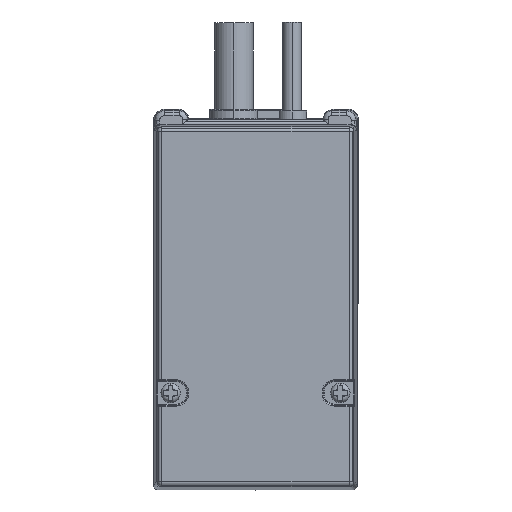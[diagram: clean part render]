
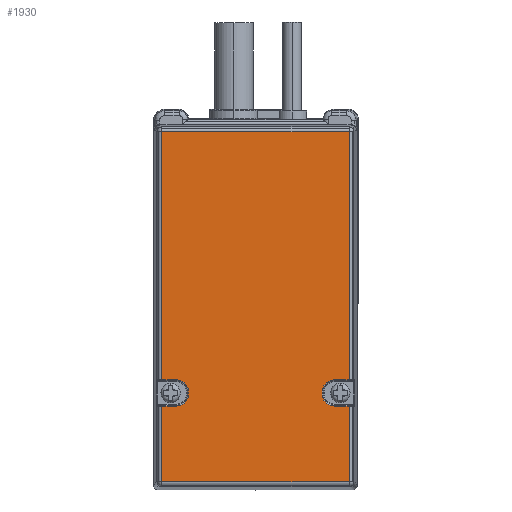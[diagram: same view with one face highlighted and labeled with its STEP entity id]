
A CAD part, left-side view. The second image highlights one B-rep face of the part: STEP entity #1930.
In plain terms, the highlighted planar face has unit normal (-1, 0, 0).
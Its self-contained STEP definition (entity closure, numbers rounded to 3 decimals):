
#1930=ADVANCED_FACE('',(#3755),#3756,.F.);
#3755=FACE_OUTER_BOUND('',#7293,.T.);
#3756=PLANE('',#7294);
#7293=EDGE_LOOP('',(#12443,#12444,#12445,#12446,#12447,#12448,#12449,#12450,#12451,#12452,#12453,#12454,#12455,#12456,#12457,#12458));
#7294=AXIS2_PLACEMENT_3D('',#12459,#12460,#12461);
#12443=ORIENTED_EDGE('',*,*,#14738,.F.);
#12444=ORIENTED_EDGE('',*,*,#13638,.F.);
#12445=ORIENTED_EDGE('',*,*,#13036,.F.);
#12446=ORIENTED_EDGE('',*,*,#14311,.F.);
#12447=ORIENTED_EDGE('',*,*,#13911,.F.);
#12448=ORIENTED_EDGE('',*,*,#13518,.F.);
#12449=ORIENTED_EDGE('',*,*,#13155,.F.);
#12450=ORIENTED_EDGE('',*,*,#12885,.F.);
#12451=ORIENTED_EDGE('',*,*,#14762,.F.);
#12452=ORIENTED_EDGE('',*,*,#14345,.F.);
#12453=ORIENTED_EDGE('',*,*,#12811,.F.);
#12454=ORIENTED_EDGE('',*,*,#14244,.F.);
#12455=ORIENTED_EDGE('',*,*,#14591,.F.);
#12456=ORIENTED_EDGE('',*,*,#14763,.F.);
#12457=ORIENTED_EDGE('',*,*,#14487,.F.);
#12458=ORIENTED_EDGE('',*,*,#13835,.F.);
#12459=CARTESIAN_POINT('',(-94.404,0.115,36.16));
#12460=DIRECTION('',(1.0,0.0,0.0));
#12461=DIRECTION('',(0.0,1.0,0.));
#12811=EDGE_CURVE('',#14911,#14913,#14914,.T.);
#12885=EDGE_CURVE('',#15042,#15044,#15045,.T.);
#13036=EDGE_CURVE('',#15308,#15310,#15311,.T.);
#13155=EDGE_CURVE('',#15044,#15518,#15519,.T.);
#13518=EDGE_CURVE('',#15518,#16114,#16115,.T.);
#13638=EDGE_CURVE('',#15310,#16301,#16302,.T.);
#13835=EDGE_CURVE('',#16581,#16583,#16584,.T.);
#13911=EDGE_CURVE('',#16114,#16691,#16692,.T.);
#14244=EDGE_CURVE('',#16887,#14911,#17148,.T.);
#14311=EDGE_CURVE('',#16691,#15308,#17228,.T.);
#14345=EDGE_CURVE('',#14913,#16742,#17266,.T.);
#14487=EDGE_CURVE('',#16583,#17429,#17430,.T.);
#14591=EDGE_CURVE('',#17549,#16887,#17551,.T.);
#14738=EDGE_CURVE('',#16301,#16581,#17707,.T.);
#14762=EDGE_CURVE('',#16742,#15042,#17732,.T.);
#14763=EDGE_CURVE('',#17429,#17549,#17733,.T.);
#14911=VERTEX_POINT('',#17924);
#14913=VERTEX_POINT('',#17926);
#14914=LINE('',#17927,#17928);
#15042=VERTEX_POINT('',#18100);
#15044=VERTEX_POINT('',#18102);
#15045=CIRCLE('',#18103,2.5);
#15308=VERTEX_POINT('',#18454);
#15310=VERTEX_POINT('',#18456);
#15311=LINE('',#18457,#18458);
#15518=VERTEX_POINT('',#18791);
#15519=LINE('',#18792,#18793);
#16114=VERTEX_POINT('',#19799);
#16115=CIRCLE('',#19800,2.5);
#16301=VERTEX_POINT('',#20423);
#16302=LINE('',#20424,#20425);
#16581=VERTEX_POINT('',#21069);
#16583=VERTEX_POINT('',#21071);
#16584=CIRCLE('',#21072,2.5);
#16691=VERTEX_POINT('',#21206);
#16692=LINE('',#21207,#21208);
#16742=VERTEX_POINT('',#21276);
#16887=VERTEX_POINT('',#21477);
#17148=LINE('',#21886,#21887);
#17228=LINE('',#22075,#22076);
#17266=LINE('',#22165,#22166);
#17429=VERTEX_POINT('',#22441);
#17430=LINE('',#22442,#22443);
#17549=VERTEX_POINT('',#22600);
#17551=LINE('',#22602,#22603);
#17707=LINE('',#22888,#22889);
#17732=LINE('',#23095,#23096);
#17733=CIRCLE('',#23097,2.5);
#17924=CARTESIAN_POINT('',(-94.404,19.425,70.788));
#17926=CARTESIAN_POINT('',(-94.404,-19.195,70.788));
#17927=CARTESIAN_POINT('',(-94.404,-1.135,70.788));
#17928=VECTOR('',#23215,1.0);
#18100=CARTESIAN_POINT('',(-94.404,-16.185,19.615));
#18102=CARTESIAN_POINT('',(-94.404,-13.685,17.115));
#18103=AXIS2_PLACEMENT_3D('',#23324,#23325,#23326);
#18454=CARTESIAN_POINT('',(-94.404,-19.195,-1.396));
#18456=CARTESIAN_POINT('',(-94.404,19.425,-1.396));
#18457=CARTESIAN_POINT('',(-94.404,0.115,-1.396));
#18458=VECTOR('',#23551,1.0);
#18791=CARTESIAN_POINT('',(-94.404,-13.685,16.715));
#18792=CARTESIAN_POINT('',(-94.404,-13.685,26.537));
#18793=VECTOR('',#23707,1.0);
#19799=CARTESIAN_POINT('',(-94.404,-16.185,14.215));
#19800=AXIS2_PLACEMENT_3D('',#24234,#24235,#24236);
#20423=CARTESIAN_POINT('',(-94.404,19.425,14.215));
#20424=CARTESIAN_POINT('',(-94.404,19.425,38.338));
#20425=VECTOR('',#24401,1.0);
#21069=CARTESIAN_POINT('',(-94.404,16.415,14.215));
#21071=CARTESIAN_POINT('',(-94.404,13.915,16.715));
#21072=AXIS2_PLACEMENT_3D('',#24667,#24668,#24669);
#21206=CARTESIAN_POINT('',(-94.404,-19.195,14.215));
#21207=CARTESIAN_POINT('',(-94.404,-8.635,14.215));
#21208=VECTOR('',#24787,1.0);
#21276=CARTESIAN_POINT('',(-94.404,-19.195,19.615));
#21477=CARTESIAN_POINT('',(-94.404,19.425,19.615));
#21886=CARTESIAN_POINT('',(-94.404,19.425,38.338));
#21887=VECTOR('',#25246,1.0);
#22075=CARTESIAN_POINT('',(-94.404,-19.195,36.16));
#22076=VECTOR('',#25322,1.0);
#22165=CARTESIAN_POINT('',(-94.404,-19.195,36.16));
#22166=VECTOR('',#25360,1.0);
#22441=CARTESIAN_POINT('',(-94.404,13.915,17.115));
#22442=CARTESIAN_POINT('',(-94.404,13.915,26.537));
#22443=VECTOR('',#25508,1.0);
#22600=CARTESIAN_POINT('',(-94.404,16.415,19.615));
#22602=CARTESIAN_POINT('',(-94.404,8.865,19.615));
#22603=VECTOR('',#25610,1.0);
#22888=CARTESIAN_POINT('',(-94.404,8.865,14.215));
#22889=VECTOR('',#25708,1.0);
#23095=CARTESIAN_POINT('',(-94.404,-8.635,19.615));
#23096=VECTOR('',#25716,1.0);
#23097=AXIS2_PLACEMENT_3D('',#25717,#25718,#25719);
#23215=DIRECTION('',(0.0,-1.0,0.0));
#23324=CARTESIAN_POINT('',(-94.404,-16.185,17.115));
#23325=DIRECTION('',(-1.0,0.0,0.0));
#23326=DIRECTION('',(0.0,0.707,0.707));
#23551=DIRECTION('',(0.0,1.0,0.0));
#23707=DIRECTION('',(0.0,0.0,-1.0));
#24234=CARTESIAN_POINT('',(-94.404,-16.185,16.715));
#24235=DIRECTION('',(-1.0,0.0,0.0));
#24236=DIRECTION('',(0.0,0.707,-0.707));
#24401=DIRECTION('',(0.0,0.,1.0));
#24667=CARTESIAN_POINT('',(-94.404,16.415,16.715));
#24668=DIRECTION('',(-1.0,-0.0,0.0));
#24669=DIRECTION('',(0.0,-0.707,-0.707));
#24787=DIRECTION('',(0.0,-1.0,0.0));
#25246=DIRECTION('',(0.0,0.,1.0));
#25322=DIRECTION('',(0.0,0.,-1.0));
#25360=DIRECTION('',(0.0,0.,-1.0));
#25508=DIRECTION('',(0.0,0.0,1.0));
#25610=DIRECTION('',(0.0,1.0,0.0));
#25708=DIRECTION('',(0.0,-1.0,0.0));
#25716=DIRECTION('',(0.0,1.0,0.0));
#25717=CARTESIAN_POINT('',(-94.404,16.415,17.115));
#25718=DIRECTION('',(-1.0,0.0,0.0));
#25719=DIRECTION('',(0.0,-0.707,0.707));
